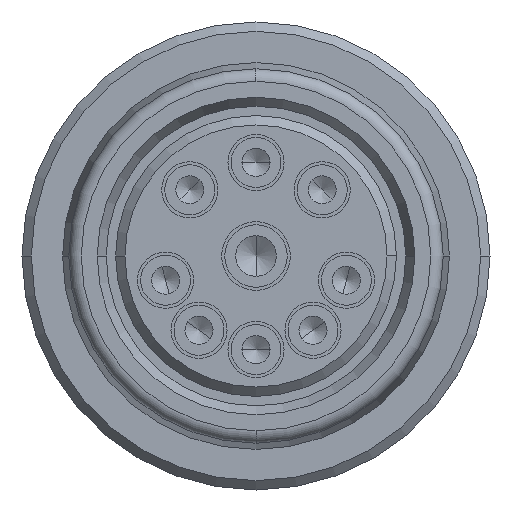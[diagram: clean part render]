
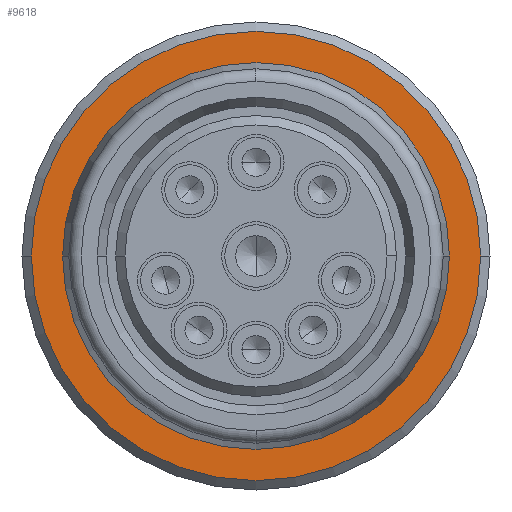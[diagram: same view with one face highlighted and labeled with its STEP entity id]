
A CAD part, left-side view. The second image highlights one B-rep face of the part: STEP entity #9618.
In plain terms, the highlighted planar face has unit normal (-1, 0, 0).
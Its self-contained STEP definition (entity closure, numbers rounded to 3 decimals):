
#2216=CARTESIAN_POINT('',(10.0,-7.2,0.0));
#2217=VERTEX_POINT('',#2216);
#2224=CARTESIAN_POINT('',(10.0,7.2,0.));
#2225=VERTEX_POINT('',#2224);
#2226=CARTESIAN_POINT('',(10.0,0.0,0.0));
#2227=DIRECTION('',(1.0,0.0,0.0));
#2228=DIRECTION('',(0.0,-1.0,0.0));
#2229=AXIS2_PLACEMENT_3D('',#2226,#2227,#2228);
#2230=CIRCLE('',#2229,7.2);
#2231=EDGE_CURVE('',#2217,#2225,#2230,.T.);
#2250=CARTESIAN_POINT('',(10.0,-6.,0.0));
#2251=VERTEX_POINT('',#2250);
#2267=CARTESIAN_POINT('',(10.0,6.,0.));
#2268=VERTEX_POINT('',#2267);
#2275=CARTESIAN_POINT('',(10.0,0.0,0.0));
#2276=DIRECTION('',(1.0,0.0,0.0));
#2277=DIRECTION('',(0.0,-1.0,0.0));
#2278=AXIS2_PLACEMENT_3D('',#2275,#2276,#2277);
#2279=CIRCLE('',#2278,6.);
#2280=EDGE_CURVE('',#2251,#2268,#2279,.T.);
#9587=CARTESIAN_POINT('',(10.0,0.0,0.0));
#9588=DIRECTION('',(1.0,0.0,0.0));
#9589=DIRECTION('',(0.0,-1.0,0.0));
#9590=AXIS2_PLACEMENT_3D('',#9587,#9588,#9589);
#9591=CIRCLE('',#9590,6.);
#9592=EDGE_CURVE('',#2268,#2251,#9591,.T.);
#9599=CARTESIAN_POINT('',(10.0,-6.6,0.0));
#9600=DIRECTION('',(-1.0,0.0,0.0));
#9601=DIRECTION('',(0.0,0.0,1.0));
#9602=AXIS2_PLACEMENT_3D('',#9599,#9600,#9601);
#9603=PLANE('',#9602);
#9604=ORIENTED_EDGE('',*,*,#2231,.F.);
#9605=CARTESIAN_POINT('',(10.0,0.0,0.0));
#9606=DIRECTION('',(1.0,0.0,0.0));
#9607=DIRECTION('',(0.0,-1.0,0.0));
#9608=AXIS2_PLACEMENT_3D('',#9605,#9606,#9607);
#9609=CIRCLE('',#9608,7.2);
#9610=EDGE_CURVE('',#2225,#2217,#9609,.T.);
#9611=ORIENTED_EDGE('',*,*,#9610,.F.);
#9612=EDGE_LOOP('',(#9604,#9611));
#9613=FACE_OUTER_BOUND('',#9612,.T.);
#9614=ORIENTED_EDGE('',*,*,#2280,.T.);
#9615=ORIENTED_EDGE('',*,*,#9592,.T.);
#9616=EDGE_LOOP('',(#9614,#9615));
#9617=FACE_BOUND('',#9616,.T.);
#9618=ADVANCED_FACE('',(#9613,#9617),#9603,.T.);
